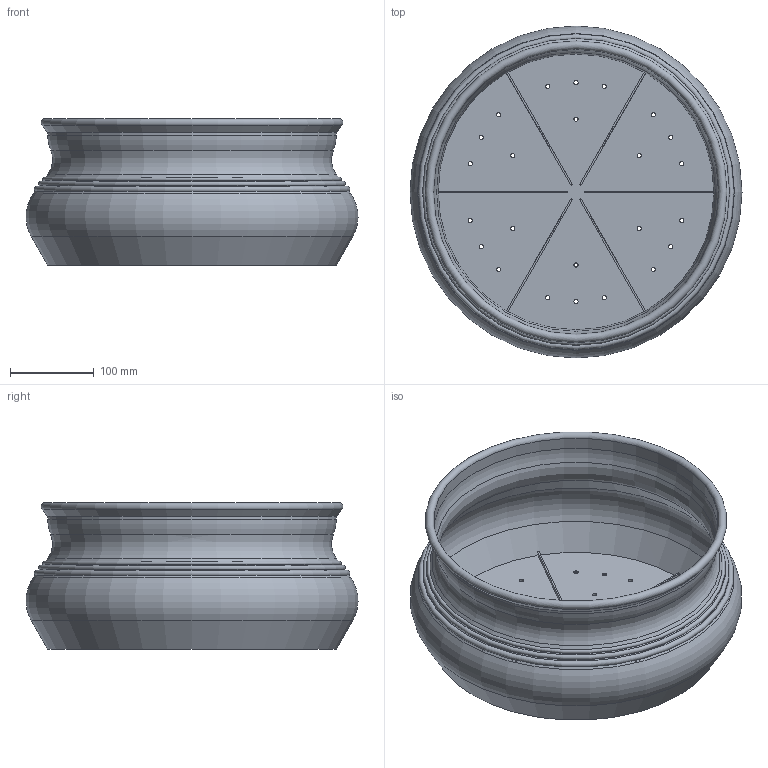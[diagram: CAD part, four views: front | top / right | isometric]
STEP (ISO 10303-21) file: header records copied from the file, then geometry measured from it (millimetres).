
FILE_DESCRIPTION(/* description */ (''),/* implementation_level */ '2;1');
FILE_NAME(/* name */ 'LR2406-S20-H175-D400_step.step',/* time_stamp */ '2024-02-01T11:02:16+01:00',/* author */ (''),/* organization */ (''),/* preprocessor_version */ 'ST-DEVELOPER v20',/* originating_system */ 'Autodesk Translation Framework v12.20.1.177',/* authorisation */ '');
FILE_SCHEMA (('AUTOMOTIVE_DESIGN { 1 0 10303 214 3 1 1 }'));
Length unit declared in the file: millimetre
Products named in the file (1): LR2406-S20-H175-D400
Bounding box: 395.97 x 395.97 x 175 mm (x, y, z)
Volume: 752054.7 mm3; surface area: 640710 mm2
Topology: 1 solids, 1 shells, 70 faces, 185 edges, 117 vertices
Faces by surface type: cylinder 32, plane 20, torus 10, cone 8
Full cylindrical faces by diameter (mm): 5 x24, 340 x1, 344 x1
Entity records: 2336 total; most frequent: DIRECTION 430, CARTESIAN_POINT 373, ORIENTED_EDGE 370, EDGE_CURVE 185, AXIS2_PLACEMENT_3D 174, EDGE_LOOP 118, VERTEX_POINT 117, CIRCLE 103
